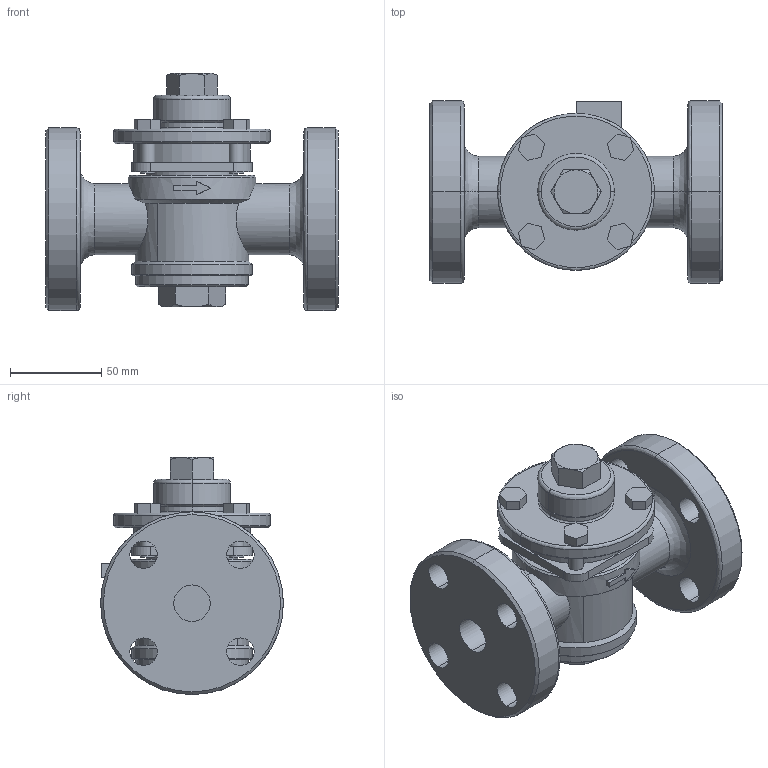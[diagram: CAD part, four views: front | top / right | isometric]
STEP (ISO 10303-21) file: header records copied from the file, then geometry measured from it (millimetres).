
FILE_DESCRIPTION( (''), '2;1');
FILE_NAME ('PC1027.12188.TSD-7F 20A_24248.stp','2025-07-31T15:30:39',(''),(''),'spGate 20.6.3 (****-****-****-****)','','');
FILE_SCHEMA (('AUTOMOTIVE_DESIGN'));
Length unit declared in the file: millimetre
Bounding box: 160 x 100 x 129.8 mm (x, y, z)
Volume: 693611.5 mm3; surface area: 94114.2 mm2
Topology: 1 solids, 1 shells, 201 faces, 500 edges, 320 vertices
Faces by surface type: plane 91, cylinder 69, bspline 41
Entity records: 10672 total; most frequent: CARTESIAN_POINT 2081, ORIENTED_EDGE 1000, DIRECTION 887, COLOUR_RGB 702, PRESENTATION_STYLE_ASSIGNMENT 702, STYLED_ITEM 702, EDGE_CURVE 500, DRAUGHTING_PRE_DEFINED_CURVE_FONT 500
